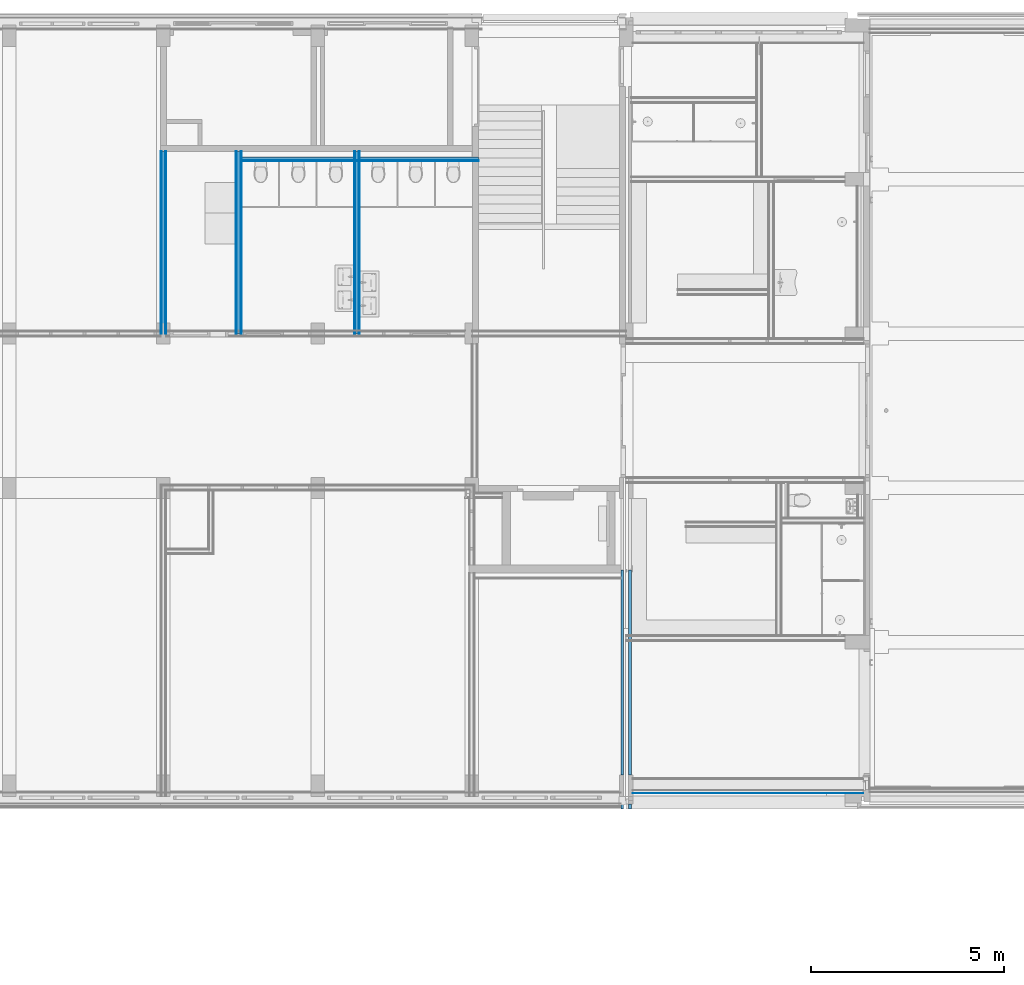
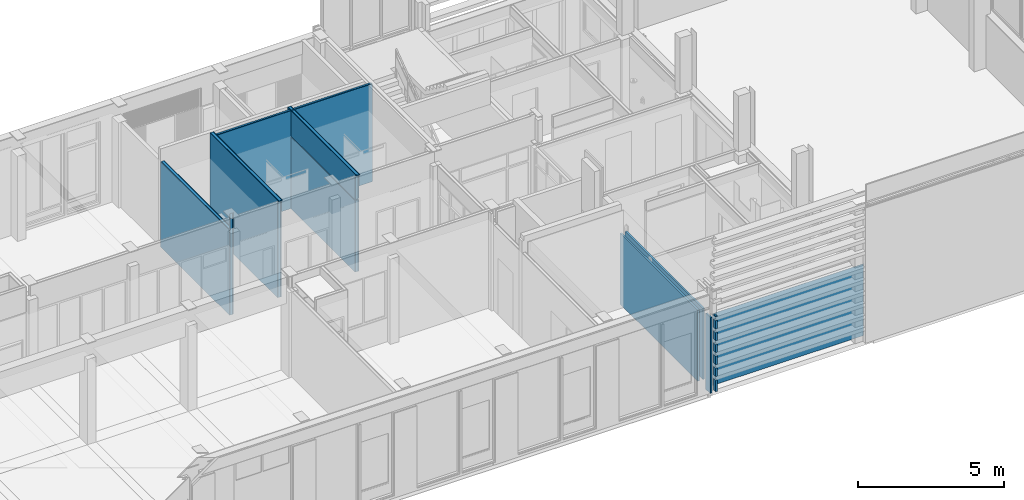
# One storey, part 75 of 109: 21 building element parts, 6 elements without a shape of their own.
"""IFC2X3 building model written with IfcOpenShell, lengths in millimetres."""

from ifc_helpers import new_model, entity, si_unit, converted_unit, derived_unit, money_unit, direction, frame, origin_with_axes, place, context, subcontext, project, spatial, faceted_brep, material, type_object, element, aggregate, save


model = new_model("IFC2X3")

# Units and contexts
model_context = context("Model", 3, precision=0.01, world=origin_with_axes(), true_north=direction((0.0, 1.0)))
body_context = subcontext(model_context, "Body", "Model", "MODEL_VIEW")
ifc_project = project(units=[si_unit("LENGTHUNIT", "METRE", prefix="MILLI"), si_unit("AREAUNIT", "SQUARE_METRE"), si_unit("VOLUMEUNIT", "CUBIC_METRE"), converted_unit("PLANEANGLEUNIT", "DEGREE", entity("IfcPlaneAngleMeasure", 0.0174532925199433), si_unit("PLANEANGLEUNIT", "RADIAN"), dimensions=[0, 0, 0, 0, 0, 0, 0]), money_unit("EUR"), converted_unit("TIMEUNIT", "Year", entity("IfcTimeMeasure", 31557600.0), si_unit("TIMEUNIT", "SECOND"), dimensions=[0, 0, 1, 0, 0, 0, 0]), si_unit("MASSUNIT", "GRAM", prefix="KILO"), si_unit("THERMODYNAMICTEMPERATUREUNIT", "DEGREE_CELSIUS"), si_unit("LUMINOUSINTENSITYUNIT", "LUMEN"), si_unit("ENERGYUNIT", "JOULE", prefix="MEGA"), derived_unit("THERMALCONDUCTANCEUNIT", [(si_unit("POWERUNIT", "WATT"), 1), (si_unit("LENGTHUNIT", "METRE"), -1), (si_unit("THERMODYNAMICTEMPERATUREUNIT", "KELVIN"), -1)]), derived_unit("SPECIFICHEATCAPACITYUNIT", [(si_unit("ENERGYUNIT", "JOULE"), 1), (si_unit("MASSUNIT", "GRAM", prefix="KILO"), -1), (si_unit("THERMODYNAMICTEMPERATUREUNIT", "KELVIN"), -1)]), derived_unit("MASSDENSITYUNIT", [(si_unit("MASSUNIT", "GRAM", prefix="KILO"), 1), (si_unit("VOLUMEUNIT", "CUBIC_METRE"), -1)])], contexts=[model_context])

# Site, building, storey
site_placement = place(None, origin_with_axes())
site = spatial("IfcSite", under=ifc_project, at=site_placement, Name="<site naam>", CompositionType="ELEMENT")
building_placement = place(site_placement, origin_with_axes())
building = spatial("IfcBuilding", under=site, at=building_placement, Name="<Naam gebouw>", CompositionType="ELEMENT")
storey_placement = place(building_placement, origin_with_axes())
storey = spatial("IfcBuildingStorey", under=building, at=storey_placement, Name="00 Begane grond", CompositionType="ELEMENT", Elevation=0.0)

# Wall, building element part
wall_type_1 = type_object("IfcWallType", Name="HSB_285 gevelbeplating Brise Soleil 398", PredefinedType="NOTDEFINED")
wall_1_placement = place(storey_placement, frame((52174.99998309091, 472.49980589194, 0.0), z_axis=(0.0, 0.0, 1.0), x_axis=(1.0, 0.0, 0.0)))
wall_1 = element("IfcWall", 1, at=wall_1_placement, inside=storey, type_object=wall_type_1, Name="22_Binnenwand_HSB_285")
ifc_material_1 = material(Name="metaal - Aluminium gevelplaat")
building_element_part_1_placement = place(wall_1_placement, origin_with_axes())
building_element_part_1 = element("IfcBuildingElementPart", 2, at=building_element_part_1_placement, material=ifc_material_1, Name="metaal - Aluminium gevelplaat", context=body_context, shape_type="Brep", body=[
    faceted_brep([(5980.000016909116, -389.4999999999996, 0.0), (5980.000016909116, -397.4999999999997, 0.0), (0.0, -397.5, 0.0), (0.0, -389.5, 0.0), (5980.000016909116, -389.4999999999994, 3008.0), (5980.000016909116, -397.4999999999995, 3008.0), (0.0, -397.4999999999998, 3008.0), (0.0, -389.4999999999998, 3008.0)], [[[0, 1, 2, 3]], [[0, 4, 5, 1]], [[1, 5, 6, 2]], [[3, 2, 6, 7]], [[4, 0, 3, 7]], [[5, 4, 7, 6]]]),
])
aggregate(wall_1, [building_element_part_1])

# Wall, building element parts
wall_type_2 = type_object("IfcWallType", Name="MS-01 GF 150 ECO DGS/2.100.2.A 150", PredefinedType="NOTDEFINED")
wall_2_placement = place(storey_placement, frame((41875.00000000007, 16874.94983443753, 0.0), z_axis=(0.0, 0.0, 1.0), x_axis=(0.0, -1.0, 0.0)))
wall_2 = element("IfcWall", 3, at=wall_2_placement, inside=storey, type_object=wall_type_2, Name="22_Binnenwand_MS-01")
ifc_material_2 = material(Name="gipsplaat")
building_element_part_2_placement = place(wall_2_placement, origin_with_axes())
building_element_part_2 = element("IfcBuildingElementPart", 4, at=building_element_part_2_placement, material=ifc_material_2, Name="gipsplaat", context=body_context, shape_type="Brep", body=[
    faceted_brep([(149.9999664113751, 124.9999991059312, 4100.000000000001), (149.9999664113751, 137.5000000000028, 4100.000000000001), (149.9999664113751, 137.5000000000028, 0.0), (149.9999664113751, 125.0, 0.0), (4874.963981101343, 137.5000000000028, 4100.000000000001), (4874.963981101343, 124.9999991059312, 4100.000000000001), (4874.963981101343, 137.5000000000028, 4070.0), (4799.986124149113, 137.5000000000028, 4070.0), (4799.986124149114, 137.5000000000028, 0.0), (4799.986124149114, 125.0, 0.0), (4799.986124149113, 124.9999991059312, 4070.0), (4874.963981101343, 124.9999991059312, 4070.0)], [[[0, 1, 2, 3]], [[4, 1, 0, 5]], [[1, 4, 6, 7, 8, 2]], [[8, 9, 3, 2]], [[5, 0, 3, 9, 10, 11]], [[4, 5, 11, 6]], [[6, 11, 10, 7]], [[10, 9, 8, 7]]]),
])
building_element_part_3_placement = place(wall_2_placement, origin_with_axes())
building_element_part_3 = element("IfcBuildingElementPart", 5, at=building_element_part_3_placement, material=ifc_material_2, Name="gipsplaat", context=body_context, shape_type="Brep", body=[
    faceted_brep([(149.9999664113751, 137.5000000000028, 4100.000000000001), (149.9999664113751, 149.9999999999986, 4100.000000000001), (149.9999664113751, 149.9999999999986, 0.0), (149.9999664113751, 137.5000000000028, 0.0), (4874.963981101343, 149.9999999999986, 4100.000000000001), (4874.963981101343, 137.5000000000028, 4100.000000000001), (4874.963981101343, 149.9999999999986, 4070.0), (4799.986124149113, 149.9999999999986, 4070.0), (4799.986124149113, 149.9999999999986, 0.0), (4799.986124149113, 137.5000000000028, 0.0), (4799.986124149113, 137.5000000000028, 4070.0), (4874.963981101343, 137.5000000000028, 4070.0)], [[[0, 1, 2, 3]], [[4, 1, 0, 5]], [[1, 4, 6, 7, 8, 2]], [[8, 9, 3, 2]], [[5, 0, 3, 9, 10, 11]], [[4, 5, 11, 6]], [[6, 11, 10, 7]], [[10, 9, 8, 7]]]),
])
ifc_material_3 = material(Name="isolatie_steenwol LSW")
building_element_part_4_placement = place(wall_2_placement, origin_with_axes())
building_element_part_4 = element("IfcBuildingElementPart", 6, at=building_element_part_4_placement, material=ifc_material_3, Name="isolatie_steenwol LSW", context=body_context, shape_type="Brep", body=[
    faceted_brep([(149.9999664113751, 25.0000008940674, 4100.000000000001), (149.9999664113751, 124.9999991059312, 4100.000000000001), (149.9999664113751, 125.0, 0.0), (149.9999664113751, 24.99999999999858, 0.0), (4874.963981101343, 124.9999991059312, 4100.000000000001), (4874.963981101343, 25.0000008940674, 4100.000000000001), (4874.963981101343, 124.9999991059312, 4070.0), (4799.986124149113, 124.9999991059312, 4070.0), (4799.986124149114, 125.0, 0.0), (4799.986124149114, 24.99999999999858, 0.0), (4799.986124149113, 25.0000008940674, 4070.0), (4874.963981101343, 25.0000008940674, 4070.0)], [[[0, 1, 2, 3]], [[4, 1, 0, 5]], [[1, 4, 6, 7, 8, 2]], [[8, 9, 3, 2]], [[5, 0, 3, 9, 10, 11]], [[4, 5, 11, 6]], [[6, 11, 10, 7]], [[10, 9, 8, 7]]]),
])
building_element_part_5_placement = place(wall_2_placement, origin_with_axes())
building_element_part_5 = element("IfcBuildingElementPart", 7, at=building_element_part_5_placement, material=ifc_material_2, Name="gipsplaat", context=body_context, shape_type="Brep", body=[
    faceted_brep([(149.9999664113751, 12.50000000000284, 4100.000000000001), (149.9999664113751, 25.0000008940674, 4100.000000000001), (149.9999664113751, 24.99999999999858, 0.0), (149.9999664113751, 12.50000000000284, 0.0), (4874.963981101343, 25.0000008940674, 4100.000000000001), (4874.963981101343, 12.50000000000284, 4100.000000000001), (4874.963981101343, 25.0000008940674, 4070.0), (4799.986124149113, 25.0000008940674, 4070.0), (4799.986124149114, 24.99999999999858, 0.0), (4799.986124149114, 12.50000000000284, 0.0), (4799.986124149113, 12.50000000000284, 4070.0), (4874.963981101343, 12.50000000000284, 4070.0)], [[[0, 1, 2, 3]], [[4, 1, 0, 5]], [[1, 4, 6, 7, 8, 2]], [[8, 9, 3, 2]], [[5, 0, 3, 9, 10, 11]], [[4, 5, 11, 6]], [[6, 11, 10, 7]], [[10, 9, 8, 7]]]),
])
building_element_part_6_placement = place(wall_2_placement, origin_with_axes())
building_element_part_6 = element("IfcBuildingElementPart", 8, at=building_element_part_6_placement, material=ifc_material_2, Name="gipsplaat", context=body_context, shape_type="Brep", body=[
    faceted_brep([(149.9999664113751, 0.0, 4100.000000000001), (149.9999664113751, 12.50000000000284, 4100.000000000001), (149.9999664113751, 12.50000000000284, 0.0), (149.9999664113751, 0.0, 0.0), (4874.963981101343, 12.50000000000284, 4100.000000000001), (4874.963981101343, 0.0, 4100.000000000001), (4874.963981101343, 12.50000000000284, 4070.0), (4799.986124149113, 12.50000000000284, 4070.0), (4799.986124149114, 12.50000000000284, 0.0), (4799.986124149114, 0.0, 0.0), (4799.986124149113, 0.0, 4070.0), (4874.963981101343, 0.0, 4070.0)], [[[0, 1, 2, 3]], [[4, 1, 0, 5]], [[1, 4, 6, 7, 8, 2]], [[8, 9, 3, 2]], [[5, 0, 3, 9, 10, 11]], [[4, 5, 11, 6]], [[6, 11, 10, 7]], [[10, 9, 8, 7]]]),
])
aggregate(wall_2, [building_element_part_2, building_element_part_3, building_element_part_4, building_element_part_5, building_element_part_6])

wall_3_placement = place(storey_placement, frame((45020.0000250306, 11999.99290551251, 0.0), z_axis=(0.0, 0.0, 1.0), x_axis=(-5.470462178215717e-09, 1.0, 0.0)))
wall_3 = element("IfcWall", 9, at=wall_3_placement, inside=storey, type_object=wall_type_2, Name="22_Binnenwand_MS-01")
building_element_part_7_placement = place(wall_3_placement, origin_with_axes())
building_element_part_7 = element("IfcBuildingElementPart", 10, at=building_element_part_7_placement, material=ifc_material_2, Name="gipsplaat", context=body_context, shape_type="Brep", body=[
    faceted_brep([(4474.956902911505, 74.99997551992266, 4100.000000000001), (4474.956902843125, 62.49997551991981, 4100.000000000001), (4474.956903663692, 62.49997551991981, 3040.0), (4474.956903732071, 74.99997551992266, 3040.0), (7.521876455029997e-07, 62.5, 4100.000000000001), (8.205685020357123e-07, 75.00000000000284, 4100.000000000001), (7.521876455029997e-07, 62.5, 4070.0), (74.97080511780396, 62.49999958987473, 4070.0), (74.97080511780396, 62.49999958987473, 3040.0), (74.97080518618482, 74.99999958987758, 3040.0), (74.97080518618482, 74.99999958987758, 4070.0), (8.205685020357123e-07, 75.00000000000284, 4070.0)], [[[0, 1, 2, 3]], [[4, 1, 0, 5]], [[1, 4, 6, 7, 8, 2]], [[9, 3, 2, 8]], [[5, 0, 3, 9, 10, 11]], [[4, 5, 11, 6]], [[6, 11, 10, 7]], [[10, 9, 8, 7]]]),
    faceted_brep([(4724.956962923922, 74.99997415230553, 4100.000000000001), (4724.956962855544, 62.49997415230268, 4100.000000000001), (4724.956962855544, 62.49997415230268, 0.0), (4724.956962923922, 74.99997415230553, 0.0), (4499.956902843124, 62.49997538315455, 4100.000000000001), (4499.956902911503, 74.99997538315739, 4100.000000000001), (4499.956902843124, 62.49997538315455, 0.0), (4499.956902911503, 74.99997538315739, 0.0)], [[[0, 1, 2, 3]], [[4, 1, 0, 5]], [[1, 4, 6, 2]], [[6, 7, 3, 2]], [[5, 0, 3, 7]], [[4, 5, 7, 6]]]),
    faceted_brep([(4474.956903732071, 74.99997551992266, 3000.0), (4474.956903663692, 62.49997551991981, 3000.0), (4474.956902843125, 62.49997551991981, 0.0), (4474.956902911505, 74.99997551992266, 0.0), (74.97080511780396, 62.49999958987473, 3000.0), (74.97080518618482, 74.99999958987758, 3000.0), (74.97080511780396, 62.49999958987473, 0.0), (74.97080518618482, 74.99999958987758, 0.0)], [[[0, 1, 2, 3]], [[4, 1, 0, 5]], [[1, 4, 6, 2]], [[7, 3, 2, 6]], [[5, 0, 3, 7]], [[4, 5, 7, 6]]]),
])
building_element_part_8_placement = place(wall_3_placement, origin_with_axes())
building_element_part_8 = element("IfcBuildingElementPart", 11, at=building_element_part_8_placement, material=ifc_material_2, Name="gipsplaat", context=body_context, shape_type="Brep", body=[
    faceted_brep([(4474.956902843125, 62.49997551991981, 4100.000000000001), (4474.956902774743, 49.99997551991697, 4100.000000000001), (4474.956903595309, 49.99997551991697, 3040.0), (4474.956903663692, 62.49997551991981, 3040.0), (6.838085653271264e-07, 49.99999910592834, 4100.000000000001), (7.521876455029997e-07, 62.5, 4100.000000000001), (6.838085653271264e-07, 49.99999910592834, 4070.0), (74.97080504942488, 49.99999958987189, 4070.0), (74.97080504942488, 49.99999958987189, 3040.0), (74.97080511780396, 62.49999958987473, 3040.0), (74.97080511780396, 62.49999958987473, 4070.0), (7.521876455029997e-07, 62.5, 4070.0)], [[[0, 1, 2, 3]], [[4, 1, 0, 5]], [[1, 4, 6, 7, 8, 2]], [[9, 3, 2, 8]], [[5, 0, 3, 9, 10, 11]], [[4, 5, 11, 6]], [[6, 11, 10, 7]], [[10, 9, 8, 7]]]),
    faceted_brep([(4724.956962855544, 62.49997415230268, 4100.000000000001), (4724.956962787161, 49.99997415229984, 4100.000000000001), (4724.956962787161, 49.99997415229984, 0.0), (4724.956962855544, 62.49997415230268, 0.0), (4499.956902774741, 49.99997538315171, 4100.000000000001), (4499.956902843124, 62.49997538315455, 4100.000000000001), (4499.956902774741, 49.99997538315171, 0.0), (4499.956902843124, 62.49997538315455, 0.0)], [[[0, 1, 2, 3]], [[4, 1, 0, 5]], [[1, 4, 6, 2]], [[6, 7, 3, 2]], [[5, 0, 3, 7]], [[4, 5, 7, 6]]]),
    faceted_brep([(4474.956903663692, 62.49997551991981, 3000.0), (4474.956903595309, 49.99997551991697, 3000.0), (4474.956902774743, 49.99997551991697, 0.0), (4474.956902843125, 62.49997551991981, 0.0), (74.97080504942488, 49.99999958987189, 3000.0), (74.97080511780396, 62.49999958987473, 3000.0), (74.97080504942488, 49.99999958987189, 0.0), (74.97080511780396, 62.49999958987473, 0.0)], [[[0, 1, 2, 3]], [[4, 1, 0, 5]], [[1, 4, 6, 2]], [[7, 3, 2, 6]], [[5, 0, 3, 7]], [[4, 5, 7, 6]]]),
])
building_element_part_9_placement = place(wall_3_placement, origin_with_axes())
building_element_part_9 = element("IfcBuildingElementPart", 12, at=building_element_part_9_placement, material=ifc_material_3, Name="isolatie_steenwol LSW", context=body_context, shape_type="Brep", body=[
    faceted_brep([(4474.956902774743, 49.99997551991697, 4100.000000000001), (4474.956902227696, -50.00002448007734, 4100.000000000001), (4474.956903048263, -50.00002448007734, 3040.0), (4474.956903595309, 49.99997551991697, 3040.0), (1.367617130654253e-07, -49.99999910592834, 4100.000000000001), (6.838085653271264e-07, 49.99999910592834, 4100.000000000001), (1.367617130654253e-07, -49.99999910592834, 4070.0), (74.97080450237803, -50.00000041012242, 4070.0), (74.97080450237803, -50.00000041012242, 3040.0), (74.97080504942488, 49.99999958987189, 3040.0), (74.97080504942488, 49.99999958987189, 4070.0), (6.838085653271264e-07, 49.99999910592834, 4070.0)], [[[0, 1, 2, 3]], [[4, 1, 0, 5]], [[1, 4, 6, 7, 8, 2]], [[9, 3, 2, 8]], [[5, 0, 3, 9, 10, 11]], [[4, 5, 11, 6]], [[6, 11, 10, 7]], [[10, 9, 8, 7]]]),
    faceted_brep([(4724.956962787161, 49.99997415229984, 4100.000000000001), (4724.956962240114, -50.00002584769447, 4100.000000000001), (4724.956962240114, -50.00002584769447, 0.0), (4724.956962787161, 49.99997415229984, 0.0), (4499.956902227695, -50.00002461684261, 4100.000000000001), (4499.956902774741, 49.99997538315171, 4100.000000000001), (4499.956902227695, -50.00002461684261, 0.0), (4499.956902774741, 49.99997538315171, 0.0)], [[[0, 1, 2, 3]], [[4, 1, 0, 5]], [[1, 4, 6, 2]], [[6, 7, 3, 2]], [[5, 0, 3, 7]], [[4, 5, 7, 6]]]),
    faceted_brep([(4474.956903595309, 49.99997551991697, 3000.0), (4474.956903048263, -50.00002448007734, 3000.0), (4474.956902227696, -50.00002448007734, 0.0), (4474.956902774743, 49.99997551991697, 0.0), (74.97080450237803, -50.00000041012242, 3000.0), (74.97080504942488, 49.99999958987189, 3000.0), (74.97080450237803, -50.00000041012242, 0.0), (74.97080504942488, 49.99999958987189, 0.0)], [[[0, 1, 2, 3]], [[4, 1, 0, 5]], [[1, 4, 6, 2]], [[7, 3, 2, 6]], [[5, 0, 3, 7]], [[4, 5, 7, 6]]]),
])
building_element_part_10_placement = place(wall_3_placement, origin_with_axes())
building_element_part_10 = element("IfcBuildingElementPart", 13, at=building_element_part_10_placement, material=ifc_material_2, Name="gipsplaat", context=body_context, shape_type="Brep", body=[
    faceted_brep([(4474.956902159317, -62.50002448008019, 4100.000000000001), (4474.956902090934, -75.00002448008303, 4100.000000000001), (4474.956902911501, -75.00002448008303, 3040.0), (4474.956902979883, -62.50002448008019, 3040.0), (0.0, -75.00000000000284, 4100.000000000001), (6.838085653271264e-08, -62.5, 4100.000000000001), (0.0, -75.00000000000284, 4070.0), (74.97080436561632, -75.00000041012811, 4070.0), (74.97080436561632, -75.00000041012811, 3040.0), (74.97080443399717, -62.50000041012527, 3040.0), (74.97080443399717, -62.50000041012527, 4070.0), (6.838085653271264e-08, -62.5, 4070.0)], [[[0, 1, 2, 3]], [[4, 1, 0, 5]], [[1, 4, 6, 7, 8, 2]], [[9, 3, 2, 8]], [[5, 0, 3, 9, 10, 11]], [[4, 5, 11, 6]], [[6, 11, 10, 7]], [[10, 9, 8, 7]]]),
    faceted_brep([(4724.956962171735, -62.50002584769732, 4100.000000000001), (4724.956962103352, -75.00002584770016, 4100.000000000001), (4724.956962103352, -75.00002584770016, 0.0), (4724.956962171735, -62.50002584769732, 0.0), (4499.956902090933, -75.0000246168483, 4100.000000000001), (4499.956902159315, -62.50002461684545, 4100.000000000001), (4499.956902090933, -75.0000246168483, 0.0), (4499.956902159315, -62.50002461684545, 0.0)], [[[0, 1, 2, 3]], [[4, 1, 0, 5]], [[1, 4, 6, 2]], [[6, 7, 3, 2]], [[5, 0, 3, 7]], [[4, 5, 7, 6]]]),
    faceted_brep([(4474.956902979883, -62.50002448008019, 3000.0), (4474.956902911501, -75.00002448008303, 3000.0), (4474.956902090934, -75.00002448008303, 0.0), (4474.956902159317, -62.50002448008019, 0.0), (74.97080436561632, -75.00000041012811, 3000.0), (74.97080443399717, -62.50000041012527, 3000.0), (74.97080436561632, -75.00000041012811, 0.0), (74.97080443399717, -62.50000041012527, 0.0)], [[[0, 1, 2, 3]], [[4, 1, 0, 5]], [[1, 4, 6, 2]], [[7, 3, 2, 6]], [[5, 0, 3, 7]], [[4, 5, 7, 6]]]),
])
building_element_part_11_placement = place(wall_3_placement, origin_with_axes())
building_element_part_11 = element("IfcBuildingElementPart", 14, at=building_element_part_11_placement, material=ifc_material_2, Name="gipsplaat", context=body_context, shape_type="Brep", body=[
    faceted_brep([(4474.956902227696, -50.00002448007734, 4100.000000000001), (4474.956902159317, -62.50002448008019, 4100.000000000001), (4474.956902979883, -62.50002448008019, 3040.0), (4474.956903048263, -50.00002448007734, 3040.0), (6.838085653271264e-08, -62.5, 4100.000000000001), (1.367617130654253e-07, -49.99999910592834, 4100.000000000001), (6.838085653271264e-08, -62.5, 4070.0), (74.97080443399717, -62.50000041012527, 4070.0), (74.97080443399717, -62.50000041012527, 3040.0), (74.97080450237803, -50.00000041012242, 3040.0), (74.97080450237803, -50.00000041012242, 4070.0), (1.367617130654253e-07, -49.99999910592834, 4070.0)], [[[0, 1, 2, 3]], [[4, 1, 0, 5]], [[1, 4, 6, 7, 8, 2]], [[9, 3, 2, 8]], [[5, 0, 3, 9, 10, 11]], [[4, 5, 11, 6]], [[6, 11, 10, 7]], [[10, 9, 8, 7]]]),
    faceted_brep([(4724.956962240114, -50.00002584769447, 4100.000000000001), (4724.956962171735, -62.50002584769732, 4100.000000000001), (4724.956962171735, -62.50002584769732, 0.0), (4724.956962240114, -50.00002584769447, 0.0), (4499.956902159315, -62.50002461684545, 4100.000000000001), (4499.956902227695, -50.00002461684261, 4100.000000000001), (4499.956902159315, -62.50002461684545, 0.0), (4499.956902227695, -50.00002461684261, 0.0)], [[[0, 1, 2, 3]], [[4, 1, 0, 5]], [[1, 4, 6, 2]], [[6, 7, 3, 2]], [[5, 0, 3, 7]], [[4, 5, 7, 6]]]),
    faceted_brep([(4474.956903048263, -50.00002448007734, 3000.0), (4474.956902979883, -62.50002448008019, 3000.0), (4474.956902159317, -62.50002448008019, 0.0), (4474.956902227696, -50.00002448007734, 0.0), (74.97080443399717, -62.50000041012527, 3000.0), (74.97080450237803, -50.00000041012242, 3000.0), (74.97080443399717, -62.50000041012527, 0.0), (74.97080450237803, -50.00000041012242, 0.0)], [[[0, 1, 2, 3]], [[4, 1, 0, 5]], [[1, 4, 6, 2]], [[7, 3, 2, 6]], [[5, 0, 3, 7]], [[4, 5, 7, 6]]]),
])
aggregate(wall_3, [building_element_part_7, building_element_part_8, building_element_part_9, building_element_part_10, building_element_part_11])

wall_type_3 = type_object("IfcWallType", Name="MS-03 GF 100 HTT DGS V/100.2 100", PredefinedType="NOTDEFINED")
wall_4_placement = place(storey_placement, frame((41875.00000000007, 16574.94980801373, 0.0), z_axis=(0.0, 0.0, 1.0), x_axis=(1.0, 5.470458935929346e-09, 0.0)))
wall_4 = element("IfcWall", 15, at=wall_4_placement, inside=storey, type_object=wall_type_3, Name="22_Binnenwand_MS-03")
building_element_part_12_placement = place(wall_4_placement, origin_with_axes())
building_element_part_12 = element("IfcBuildingElementPart", 16, at=building_element_part_12_placement, material=ifc_material_3, Name="isolatie_steenwol LSW", context=body_context, shape_type="Brep", body=[
    faceted_brep([(3070.000000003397, -75.00001679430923, 0.0), (149.999999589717, -75.00000082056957, 0.0), (149.9999999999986, -8.205702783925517e-07, 0.0), (3070.000000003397, -1.679430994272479e-05, 0.0), (3070.000000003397, -75.00001679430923, 4099.999995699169), (149.999999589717, -75.00000082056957, 4099.999995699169), (149.9999999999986, -8.205702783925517e-07, 4099.999995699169), (3070.000000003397, -1.679430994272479e-05, 4099.999995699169)], [[[0, 1, 2, 3]], [[4, 5, 1, 0]], [[2, 1, 5, 6]], [[3, 2, 6, 7]], [[3, 7, 4, 0]], [[7, 6, 5, 4]]]),
    faceted_brep([(6300.000000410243, -3.446389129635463e-05, 0.0), (6299.999999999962, -75.00003446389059, 0.0), (3220.000000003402, -75.00001761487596, 0.0), (3220.000000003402, -1.761487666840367e-05, 0.0), (6300.000000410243, -3.446389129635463e-05, 4099.999995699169), (6299.999999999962, -75.00003446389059, 4099.999995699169), (3220.000000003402, -75.00001761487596, 4099.999995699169), (3220.000000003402, -1.761487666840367e-05, 4099.999995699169)], [[[0, 1, 2, 3]], [[0, 4, 5, 1]], [[1, 5, 6, 2]], [[3, 2, 6, 7]], [[4, 0, 3, 7]], [[5, 4, 7, 6]]]),
])
building_element_part_13_placement = place(wall_4_placement, origin_with_axes())
building_element_part_13 = element("IfcBuildingElementPart", 17, at=building_element_part_13_placement, material=ifc_material_2, Name="gipsplaat", context=body_context, shape_type="Brep", body=[
    faceted_brep([(6300.000000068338, -87.50003446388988, 0.0), (6299.999999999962, -100.0000344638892, 0.0), (149.9999994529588, -100.0000008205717, 0.0), (149.9999995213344, -87.50000082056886, 0.0), (6300.000000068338, -87.50003446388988, 4099.999995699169), (6299.999999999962, -100.0000344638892, 4099.999995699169), (149.9999994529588, -100.0000008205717, 4099.999995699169), (149.9999995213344, -87.50000082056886, 4099.999995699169)], [[[0, 1, 2, 3]], [[0, 4, 5, 1]], [[1, 5, 6, 2]], [[3, 2, 6, 7]], [[4, 0, 3, 7]], [[5, 4, 7, 6]]]),
])
building_element_part_14_placement = place(wall_4_placement, origin_with_axes())
building_element_part_14 = element("IfcBuildingElementPart", 18, at=building_element_part_14_placement, material=ifc_material_2, Name="gipsplaat", context=body_context, shape_type="Brep", body=[
    faceted_brep([(6300.000000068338, -75.00003446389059, 0.0), (6299.999999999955, -87.50003446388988, 0.0), (149.9999995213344, -87.50000082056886, 0.0), (149.999999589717, -75.00000082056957, 0.0), (6300.000000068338, -75.00003446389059, 4099.999995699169), (6299.999999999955, -87.50003446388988, 4099.999995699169), (149.9999995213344, -87.50000082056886, 4099.999995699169), (149.999999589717, -75.00000082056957, 4099.999995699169)], [[[0, 1, 2, 3]], [[0, 4, 5, 1]], [[1, 5, 6, 2]], [[3, 2, 6, 7]], [[4, 0, 3, 7]], [[5, 4, 7, 6]]]),
])
aggregate(wall_4, [building_element_part_12, building_element_part_13, building_element_part_14])

wall_type_4 = type_object("IfcWallType", Name="metalstud-lucht-metalstud 270 270", PredefinedType="NOTDEFINED")
wall_5_placement = place(storey_placement, frame((52000.00000000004, 5871.000000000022, 0.0), z_axis=(0.0, 0.0, 1.0), x_axis=(0.0, -1.0, 0.0)))
wall_5 = element("IfcWall", 19, at=wall_5_placement, inside=storey, type_object=wall_type_4, Name="22_Binnenwand_metalstud-lucht-metalstud")
ifc_material_4 = material(Name="metal_stud")
building_element_part_15_placement = place(wall_5_placement, origin_with_axes())
building_element_part_15 = element("IfcBuildingElementPart", 20, at=building_element_part_15_placement, material=ifc_material_4, Name="metal_stud", context=body_context, shape_type="Brep", body=[
    faceted_brep([(0.0, 64.99999999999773, 2978.0), (5321.000000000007, 64.99999999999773, 2978.0), (5321.000000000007, 134.999999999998, 2978.0), (0.0, 134.999999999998, 2978.0), (0.0, 64.99999999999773, 0.0), (5321.000000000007, 65.00006417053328, 0.0), (5321.000000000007, 134.999999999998, 0.0), (0.0, 134.999999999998, 0.0)], [[[0, 1, 2, 3]], [[4, 5, 1, 0]], [[5, 6, 2, 1]], [[3, 2, 6, 7]], [[3, 7, 4, 0]], [[7, 6, 5, 4]]]),
    faceted_brep([(6066.000003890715, 134.999999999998, 20.00001468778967), (6066.000003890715, 134.999999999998, 500.0), (6195.089321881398, 134.999999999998, 500.0), (6195.089321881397, 134.999999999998, 20.00001468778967), (6066.000003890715, 65.00004223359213, 500.0), (6066.000003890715, 64.99999999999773, 20.00001468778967), (6195.089321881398, 64.99999999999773, 500.0), (6195.089321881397, 64.99999999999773, 20.00001468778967)], [[[0, 1, 2, 3]], [[4, 1, 0, 5]], [[1, 4, 6, 2]], [[3, 2, 6, 7]], [[5, 0, 3, 7]], [[4, 5, 7, 6]]]),
    faceted_brep([(6066.000003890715, 134.999999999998, 649.9999999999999), (6066.000003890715, 134.999999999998, 1000.0), (6195.089321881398, 134.999999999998, 1000.0), (6195.089321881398, 134.999999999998, 649.9999999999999), (6066.000003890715, 65.00004223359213, 1000.0), (6066.000003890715, 65.00004223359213, 649.9999999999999), (6195.089321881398, 64.99999999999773, 1000.0), (6195.089321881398, 64.99999999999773, 649.9999999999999)], [[[0, 1, 2, 3]], [[4, 1, 0, 5]], [[1, 4, 6, 2]], [[6, 7, 3, 2]], [[5, 0, 3, 7]], [[4, 5, 7, 6]]]),
    faceted_brep([(6066.000003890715, 134.999999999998, 1150.0), (6066.000003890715, 134.999999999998, 1510.0), (6195.089321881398, 134.999999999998, 1510.0), (6195.089321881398, 134.999999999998, 1150.0), (6066.000003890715, 65.00004223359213, 1510.0), (6066.000003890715, 65.00004223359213, 1150.0), (6195.089321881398, 64.99999999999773, 1510.0), (6195.089321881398, 64.99999999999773, 1150.0)], [[[0, 1, 2, 3]], [[4, 1, 0, 5]], [[1, 4, 6, 2]], [[6, 7, 3, 2]], [[5, 0, 3, 7]], [[4, 5, 7, 6]]]),
    faceted_brep([(6066.000003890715, 134.999999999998, 1660.0), (6066.000003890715, 134.999999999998, 2000.0), (6195.089321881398, 134.999999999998, 2000.0), (6195.089321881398, 134.999999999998, 1660.0), (6066.000003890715, 65.00004223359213, 2000.0), (6066.000003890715, 65.00004223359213, 1660.0), (6195.089321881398, 64.99999999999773, 2000.0), (6195.089321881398, 64.99999999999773, 1660.0)], [[[0, 1, 2, 3]], [[4, 1, 0, 5]], [[1, 4, 6, 2]], [[6, 7, 3, 2]], [[5, 0, 3, 7]], [[4, 5, 7, 6]]]),
    faceted_brep([(6066.000003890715, 134.999999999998, 2150.0), (6066.000003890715, 134.999999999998, 2500.0), (6195.089321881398, 134.999999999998, 2500.0), (6195.089321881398, 134.999999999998, 2150.0), (6066.000003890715, 65.00004223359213, 2500.0), (6066.000003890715, 65.00004223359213, 2150.0), (6195.089321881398, 64.99999999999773, 2500.0), (6195.089321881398, 64.99999999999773, 2150.0)], [[[0, 1, 2, 3]], [[4, 1, 0, 5]], [[1, 4, 6, 2]], [[6, 7, 3, 2]], [[5, 0, 3, 7]], [[4, 5, 7, 6]]]),
    faceted_brep([(6066.000003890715, 134.999999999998, 2650.0), (6066.000003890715, 134.999999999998, 3000.0), (6195.089321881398, 134.999999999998, 3000.0), (6195.089321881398, 134.999999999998, 2650.0), (6066.000003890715, 65.00004223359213, 3000.0), (6066.000003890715, 65.00004223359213, 2650.0), (6195.089321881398, 64.99999999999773, 3000.0), (6195.089321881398, 64.99999999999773, 2650.0)], [[[0, 1, 2, 3]], [[4, 1, 0, 5]], [[1, 4, 6, 2]], [[6, 7, 3, 2]], [[5, 0, 3, 7]], [[4, 5, 7, 6]]]),
    faceted_brep([(6066.000003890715, 134.999999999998, 3150.0), (6066.000003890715, 134.999999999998, 3188.0), (6195.089321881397, 134.999999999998, 3188.0), (6195.089321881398, 134.999999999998, 3150.0), (6066.000003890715, 65.00004223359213, 3188.0), (6066.000003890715, 65.00004223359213, 3150.0), (6195.089321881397, 64.99999999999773, 3188.0), (6195.089321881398, 64.99999999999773, 3150.0)], [[[0, 1, 2, 3]], [[4, 1, 0, 5]], [[1, 4, 6, 2]], [[6, 7, 3, 2]], [[5, 0, 3, 7]], [[4, 5, 7, 6]]]),
])
building_element_part_16_placement = place(wall_5_placement, origin_with_axes())
building_element_part_16 = element("IfcBuildingElementPart", 21, at=building_element_part_16_placement, material=ifc_material_4, Name="metal_stud", context=body_context, shape_type="Brep", body=[
    faceted_brep([(0.0, -134.999999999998, 2978.0), (5321.000000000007, -134.999999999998, 2978.0), (5321.000000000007, -64.99999999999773, 2978.0), (0.0, -64.99999999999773, 2978.0), (0.0, -134.999999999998, 0.0), (5321.000000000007, -134.999999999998, 0.0), (5321.000000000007, -64.99999999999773, 0.0), (0.0, -64.99999999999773, 0.0)], [[[0, 1, 2, 3]], [[4, 5, 1, 0]], [[5, 6, 2, 1]], [[3, 2, 6, 7]], [[3, 7, 4, 0]], [[7, 6, 5, 4]]]),
    faceted_brep([(5871.000000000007, -64.99999999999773, 0.0), (5871.000000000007, -64.99999999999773, 3188.0), (6195.089321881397, -64.99999999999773, 3188.0), (6195.089321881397, -64.99999999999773, 20.00001468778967), (5995.999999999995, -64.99999999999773, 20.00001468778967), (5995.999999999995, -64.99999999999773, 0.0), (5871.000000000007, -134.999999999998, 3188.0), (5871.000000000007, -134.999999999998, 0.0), (6195.089321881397, -134.999999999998, 3188.0), (6195.089321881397, -134.999999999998, 20.00001468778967), (5995.999999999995, -134.999999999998, 20.00001468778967), (5995.999999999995, -134.999999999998, 0.0)], [[[0, 1, 2, 3, 4, 5]], [[6, 1, 0, 7]], [[1, 6, 8, 2]], [[8, 9, 3, 2]], [[10, 4, 3, 9]], [[11, 5, 4, 10]], [[7, 0, 5, 11]], [[6, 7, 11, 10, 9, 8]]]),
])
aggregate(wall_5, [building_element_part_15, building_element_part_16])

wall_6_placement = place(storey_placement, frame((40000.00000000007, 16724.94983205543, -30.0), z_axis=(0.0, 0.0, 1.0), x_axis=(0.0, -1.0, 0.0)))
wall_6 = element("IfcWall", 22, at=wall_6_placement, inside=storey, type_object=wall_type_2, Name="22_Binnenwand_MS-01")
building_element_part_17_placement = place(wall_6_placement, origin_with_axes())
building_element_part_17 = element("IfcBuildingElementPart", 23, at=building_element_part_17_placement, material=ifc_material_2, Name="gipsplaat", context=body_context, shape_type="Brep", body=[
    faceted_brep([(0.0, 62.5, 3600.0), (0.0, 75.00000000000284, 3600.0), (0.0, 75.00000000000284, 30.0), (0.0, 62.5, 30.0), (4724.949832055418, 75.00000000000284, 3600.0), (4724.949832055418, 62.5, 3600.0), (4724.949832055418, 75.00000000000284, 4280.0), (4727.754875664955, 75.00000000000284, 4280.0), (4727.754875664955, 75.00000000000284, 30.0), (4727.754875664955, 62.5, 30.0), (4727.754875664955, 62.5, 4280.0), (4724.949832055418, 62.5, 4280.0)], [[[0, 1, 2, 3]], [[4, 1, 0, 5]], [[4, 6, 7, 8, 2, 1]], [[9, 3, 2, 8]], [[5, 0, 3, 9, 10, 11]], [[11, 6, 4, 5]], [[6, 11, 10, 7]], [[10, 9, 8, 7]]]),
])
building_element_part_18_placement = place(wall_6_placement, origin_with_axes())
building_element_part_18 = element("IfcBuildingElementPart", 24, at=building_element_part_18_placement, material=ifc_material_2, Name="gipsplaat", context=body_context, shape_type="Brep", body=[
    faceted_brep([(0.0, 49.99999999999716, 3600.0), (0.0, 62.5, 3600.0), (0.0, 62.5, 30.0), (0.0, 49.99999999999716, 30.0), (4724.949832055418, 62.5, 3600.0), (4724.949832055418, 49.99999999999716, 3600.0), (4724.949832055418, 62.5, 4280.0), (4727.754875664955, 62.5, 4280.0), (4727.754875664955, 62.5, 30.0), (4727.754875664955, 49.99999999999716, 30.0), (4727.754875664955, 49.99999999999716, 4280.0), (4724.949832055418, 49.99999999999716, 4280.0)], [[[0, 1, 2, 3]], [[4, 1, 0, 5]], [[4, 6, 7, 8, 2, 1]], [[9, 3, 2, 8]], [[5, 0, 3, 9, 10, 11]], [[11, 6, 4, 5]], [[6, 11, 10, 7]], [[10, 9, 8, 7]]]),
])
building_element_part_19_placement = place(wall_6_placement, origin_with_axes())
building_element_part_19 = element("IfcBuildingElementPart", 25, at=building_element_part_19_placement, material=ifc_material_3, Name="isolatie_steenwol LSW", context=body_context, shape_type="Brep", body=[
    faceted_brep([(0.0, -49.99999999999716, 3600.0), (0.0, 49.99999999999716, 3600.0), (0.0, 49.99999999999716, 30.0), (0.0, -49.99999999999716, 30.0), (4724.949832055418, 49.99999999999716, 3600.0), (4724.949832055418, -49.99999999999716, 3600.0), (4724.949832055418, 49.99999999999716, 4280.0), (4727.754875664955, 49.99999999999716, 4280.0), (4727.754875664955, 49.99999999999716, 30.0), (4727.754875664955, -49.99999999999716, 30.0), (4727.754875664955, -49.99999999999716, 4280.0), (4724.949832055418, -49.99999999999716, 4280.0)], [[[0, 1, 2, 3]], [[4, 1, 0, 5]], [[4, 6, 7, 8, 2, 1]], [[9, 3, 2, 8]], [[5, 0, 3, 9, 10, 11]], [[11, 6, 4, 5]], [[6, 11, 10, 7]], [[10, 9, 8, 7]]]),
])
building_element_part_20_placement = place(wall_6_placement, origin_with_axes())
building_element_part_20 = element("IfcBuildingElementPart", 26, at=building_element_part_20_placement, material=ifc_material_2, Name="gipsplaat", context=body_context, shape_type="Brep", body=[
    faceted_brep([(0.0, -62.5, 3600.0), (0.0, -49.99999999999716, 3600.0), (0.0, -49.99999999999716, 30.0), (0.0, -62.5, 30.0), (4724.949832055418, -49.99999999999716, 3600.0), (4724.949832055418, -62.5, 3600.0), (4724.949832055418, -49.99999999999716, 4280.0), (4727.754875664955, -49.99999999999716, 4280.0), (4727.754875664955, -49.99999999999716, 30.0), (4727.754875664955, -62.5, 30.0), (4727.754875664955, -62.5, 4280.0), (4724.949832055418, -62.5, 4280.0)], [[[0, 1, 2, 3]], [[4, 1, 0, 5]], [[4, 6, 7, 8, 2, 1]], [[9, 3, 2, 8]], [[5, 0, 3, 9, 10, 11]], [[11, 6, 4, 5]], [[6, 11, 10, 7]], [[10, 9, 8, 7]]]),
])
building_element_part_21_placement = place(wall_6_placement, origin_with_axes())
building_element_part_21 = element("IfcBuildingElementPart", 27, at=building_element_part_21_placement, material=ifc_material_2, Name="gipsplaat", context=body_context, shape_type="Brep", body=[
    faceted_brep([(0.0, -75.00000000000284, 3600.0), (0.0, -62.5, 3600.0), (0.0, -62.5, 30.0), (0.0, -75.00000000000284, 30.0), (4724.949832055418, -62.5, 3600.0), (4724.949832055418, -75.00000000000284, 3600.0), (4724.949832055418, -62.5, 4280.0), (4727.754875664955, -62.5, 4280.0), (4727.754875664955, -62.5, 30.0), (4727.754875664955, -75.00000000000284, 30.0), (4727.754875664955, -75.00000000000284, 4280.0), (4724.949832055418, -75.00000000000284, 4280.0)], [[[0, 1, 2, 3]], [[4, 1, 0, 5]], [[4, 6, 7, 8, 2, 1]], [[9, 3, 2, 8]], [[5, 0, 3, 9, 10, 11]], [[11, 6, 4, 5]], [[6, 11, 10, 7]], [[10, 9, 8, 7]]]),
])
aggregate(wall_6, [building_element_part_17, building_element_part_18, building_element_part_19, building_element_part_20, building_element_part_21])

save(model, "model.ifc")
